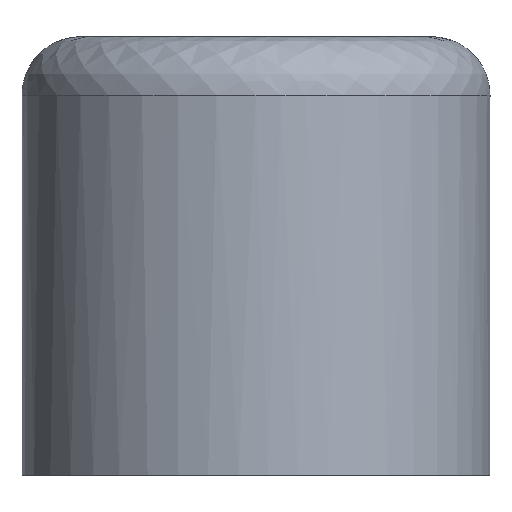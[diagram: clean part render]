
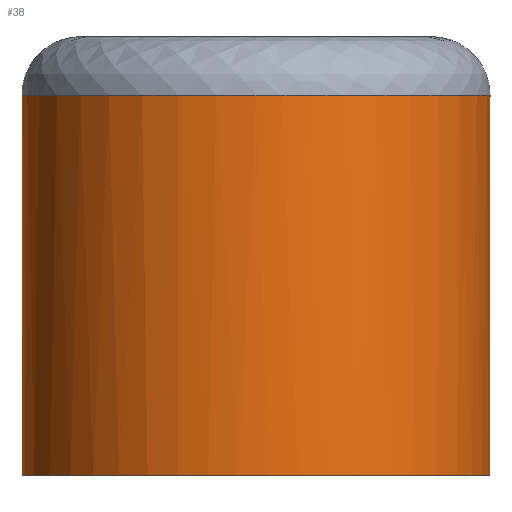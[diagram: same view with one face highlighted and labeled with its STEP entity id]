
A CAD part, left-side view. The second image highlights one B-rep face of the part: STEP entity #38.
In plain terms, the highlighted free-form (B-spline) face has degree [2, 1] with [5, 2] control points.
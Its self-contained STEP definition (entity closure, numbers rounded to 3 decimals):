
#38=ADVANCED_FACE($,(#62),#336,.T.);
#62=FACE_OUTER_BOUND($,#88,.T.);
#88=EDGE_LOOP($,(#200,#201,#202,#203,#204,#205));
#200=ORIENTED_EDGE($,*,*,#268,.T.);
#201=ORIENTED_EDGE($,*,*,#242,.T.);
#202=ORIENTED_EDGE($,*,*,#243,.T.);
#203=ORIENTED_EDGE($,*,*,#244,.T.);
#204=ORIENTED_EDGE($,*,*,#271,.T.);
#205=ORIENTED_EDGE($,*,*,#267,.F.);
#242=EDGE_CURVE($,#295,#293,#362,.T.);
#243=EDGE_CURVE($,#293,#296,#389,.T.);
#244=EDGE_CURVE($,#296,#313,#390,.T.);
#267=EDGE_CURVE($,#310,#311,#382,.T.);
#268=EDGE_CURVE($,#310,#295,#394,.T.);
#271=EDGE_CURVE($,#313,#311,#397,.T.);
#293=VERTEX_POINT($,#1071);
#295=VERTEX_POINT($,#1073);
#296=VERTEX_POINT($,#1074);
#310=VERTEX_POINT($,#1088);
#311=VERTEX_POINT($,#1089);
#313=VERTEX_POINT($,#1091);
#336=(
BOUNDED_SURFACE()
B_SPLINE_SURFACE(2,1,((#984,#985),(#986,#987),(#988,#989),(#990,#991),(#992,
#993)),.UNSPECIFIED.,.F.,.F.,.F.)
B_SPLINE_SURFACE_WITH_KNOTS((3,2,3),(2,2),(12.566,18.85,
25.133),(0.,6.5),.UNSPECIFIED.)
GEOMETRIC_REPRESENTATION_ITEM()
RATIONAL_B_SPLINE_SURFACE(((1.,1.),(0.707,0.707),
(1.,1.),(0.707,0.707),(1.,1.)))
REPRESENTATION_ITEM($)
SURFACE()
);
#362=B_SPLINE_CURVE_WITH_KNOTS($,1,(#708,#709),.UNSPECIFIED.,.F.,.F.,(2,
2),(0.,6.5),.UNSPECIFIED.);
#382=B_SPLINE_CURVE_WITH_KNOTS($,1,(#813,#814),.UNSPECIFIED.,.F.,.F.,(2,
2),(0.,6.5),.UNSPECIFIED.);
#389=(
BOUNDED_CURVE()
B_SPLINE_CURVE(3,(#710,#711,#712,#713,#714,#715,#716,#717,#718,#719,#720,
#721),.UNSPECIFIED.,.F.,.F.)
B_SPLINE_CURVE_WITH_KNOTS((4,1,1,1,1,1,1,1,1,4),(0.,0.531,
1.112,1.718,2.317,2.918,3.526,
4.11,4.712,4.712),.UNSPECIFIED.)
CURVE()
GEOMETRIC_REPRESENTATION_ITEM()
RATIONAL_B_SPLINE_CURVE((1.,1.,1.,1.,1.,1.,1.,1.,1.,1.,1.,1.))
REPRESENTATION_ITEM($)
);
#390=(
BOUNDED_CURVE()
B_SPLINE_CURVE(3,(#722,#723,#724,#725,#726,#727,#728,#729,#730,#731,#732,
#733),.UNSPECIFIED.,.F.,.F.)
B_SPLINE_CURVE_WITH_KNOTS((4,1,1,1,1,1,1,1,1,4),(4.712,5.244,
5.825,6.43,7.03,7.63,8.238,
8.822,9.425,9.425),.UNSPECIFIED.)
CURVE()
GEOMETRIC_REPRESENTATION_ITEM()
RATIONAL_B_SPLINE_CURVE((1.,1.,1.,1.,1.,1.,1.,1.,1.,1.,1.,1.))
REPRESENTATION_ITEM($)
);
#394=(
BOUNDED_CURVE()
B_SPLINE_CURVE(2,(#815,#816,#817,#818,#819),.UNSPECIFIED.,.F.,.F.)
B_SPLINE_CURVE_WITH_KNOTS((3,2,3),(12.566,18.85,25.133),
.UNSPECIFIED.)
CURVE()
GEOMETRIC_REPRESENTATION_ITEM()
RATIONAL_B_SPLINE_CURVE((1.,0.707,1.,0.707,1.))
REPRESENTATION_ITEM($)
);
#397=(
BOUNDED_CURVE()
B_SPLINE_CURVE(3,(#834,#835,#836,#837),.UNSPECIFIED.,.F.,.F.)
B_SPLINE_CURVE_WITH_KNOTS((4,4),(9.425,9.425),.UNSPECIFIED.)
CURVE()
GEOMETRIC_REPRESENTATION_ITEM()
RATIONAL_B_SPLINE_CURVE((1.,1.,1.,1.))
REPRESENTATION_ITEM($)
);
#708=CARTESIAN_POINT($,(61.81,3.5,5.5));
#709=CARTESIAN_POINT($,(61.809,3.5,12.));
#710=CARTESIAN_POINT($,(61.809,3.5,12.));
#711=CARTESIAN_POINT($,(61.573,3.5,12.));
#712=CARTESIAN_POINT($,(61.079,3.544,12.));
#713=CARTESIAN_POINT($,(60.341,3.751,12.));
#714=CARTESIAN_POINT($,(59.63,4.114,12.));
#715=CARTESIAN_POINT($,(58.999,4.616,12.));
#716=CARTESIAN_POINT($,(58.48,5.235,12.));
#717=CARTESIAN_POINT($,(58.098,5.939,12.));
#718=CARTESIAN_POINT($,(57.863,6.705,12.));
#719=CARTESIAN_POINT($,(57.809,7.232,12.));
#720=CARTESIAN_POINT($,(57.809,7.5,12.));
#721=CARTESIAN_POINT($,(57.809,7.5,12.));
#722=CARTESIAN_POINT($,(57.809,7.5,12.));
#723=CARTESIAN_POINT($,(57.809,7.736,12.));
#724=CARTESIAN_POINT($,(57.853,8.23,12.));
#725=CARTESIAN_POINT($,(58.061,8.969,12.));
#726=CARTESIAN_POINT($,(58.423,9.68,12.));
#727=CARTESIAN_POINT($,(58.926,10.31,12.));
#728=CARTESIAN_POINT($,(59.544,10.83,12.));
#729=CARTESIAN_POINT($,(60.248,11.211,12.));
#730=CARTESIAN_POINT($,(61.014,11.447,12.));
#731=CARTESIAN_POINT($,(61.542,11.5,12.));
#732=CARTESIAN_POINT($,(61.809,11.5,12.));
#733=CARTESIAN_POINT($,(61.809,11.5,12.));
#813=CARTESIAN_POINT($,(61.81,11.5,5.5));
#814=CARTESIAN_POINT($,(61.81,11.5,12.));
#815=CARTESIAN_POINT($,(61.81,11.5,5.5));
#816=CARTESIAN_POINT($,(57.81,11.5,5.5));
#817=CARTESIAN_POINT($,(57.81,7.5,5.5));
#818=CARTESIAN_POINT($,(57.81,3.5,5.5));
#819=CARTESIAN_POINT($,(61.81,3.5,5.5));
#834=CARTESIAN_POINT($,(61.809,11.5,12.));
#835=CARTESIAN_POINT($,(61.809,11.5,12.));
#836=CARTESIAN_POINT($,(61.809,11.5,12.));
#837=CARTESIAN_POINT($,(61.809,11.5,12.));
#984=CARTESIAN_POINT($,(61.81,11.5,5.5));
#985=CARTESIAN_POINT($,(61.81,11.5,12.));
#986=CARTESIAN_POINT($,(57.81,11.5,5.5));
#987=CARTESIAN_POINT($,(57.81,11.5,12.));
#988=CARTESIAN_POINT($,(57.81,7.5,5.5));
#989=CARTESIAN_POINT($,(57.81,7.5,12.));
#990=CARTESIAN_POINT($,(57.81,3.5,5.5));
#991=CARTESIAN_POINT($,(57.81,3.5,12.));
#992=CARTESIAN_POINT($,(61.81,3.5,5.5));
#993=CARTESIAN_POINT($,(61.81,3.5,12.));
#1071=CARTESIAN_POINT($,(61.809,3.5,12.));
#1073=CARTESIAN_POINT($,(61.81,3.5,5.5));
#1074=CARTESIAN_POINT($,(57.809,7.5,12.));
#1088=CARTESIAN_POINT($,(61.81,11.5,5.5));
#1089=CARTESIAN_POINT($,(61.81,11.5,12.));
#1091=CARTESIAN_POINT($,(61.809,11.5,12.));
